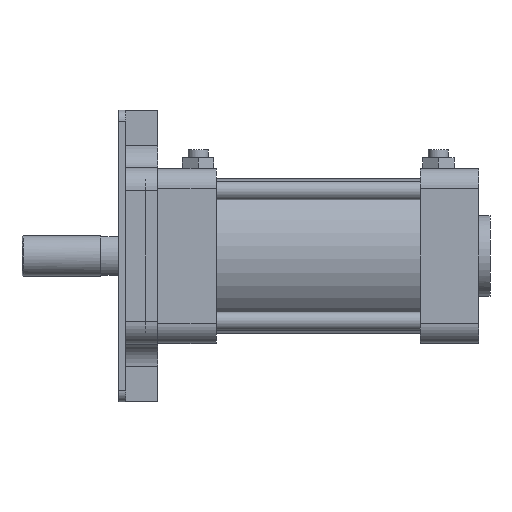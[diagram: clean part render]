
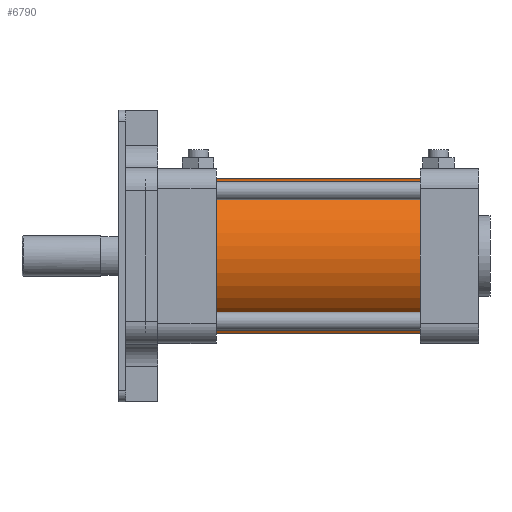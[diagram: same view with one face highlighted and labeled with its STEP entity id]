
A CAD part, front view. The second image highlights one B-rep face of the part: STEP entity #6790.
In plain terms, the highlighted cylindrical face has radius 34.5 mm (diameter 69 mm), a partial arc.
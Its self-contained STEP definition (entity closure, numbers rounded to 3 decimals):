
#191 = EDGE_CURVE ( 'NONE', #2892, #2362, #690, .T. ) ;
#510 = VERTEX_POINT ( 'NONE', #8027 ) ;
#690 = CIRCLE ( 'NONE', #8391, 34.5 ) ;
#858 = CARTESIAN_POINT ( 'NONE',  ( -29.1, 0., -34.5 ) ) ;
#1025 = DIRECTION ( 'NONE',  ( -1., 0., 0. ) ) ;
#1352 = CARTESIAN_POINT ( 'NONE',  ( -29.1, 0., 34.5 ) ) ;
#2328 = CARTESIAN_POINT ( 'NONE',  ( -45.5, 0., 34.5 ) ) ;
#2362 = VERTEX_POINT ( 'NONE', #8164 ) ;
#2718 = EDGE_CURVE ( 'NONE', #2892, #510, #9784, .T. ) ;
#2798 = DIRECTION ( 'NONE',  ( -1., 0., 0. ) ) ;
#2826 = VECTOR ( 'NONE', #5533, 1000. ) ;
#2892 = VERTEX_POINT ( 'NONE', #5248 ) ;
#2983 = AXIS2_PLACEMENT_3D ( 'NONE', #3175, #1025, #3490 ) ;
#3175 = CARTESIAN_POINT ( 'NONE',  ( -29.1, 0., 0. ) ) ;
#3438 = CIRCLE ( 'NONE', #5509, 34.5 ) ;
#3490 = DIRECTION ( 'NONE',  ( 0., 0., 1. ) ) ;
#3554 = EDGE_LOOP ( 'NONE', ( #4720, #6236, #5754, #9821 ) ) ;
#3973 = DIRECTION ( 'NONE',  ( 0., 0., 1. ) ) ;
#4720 = ORIENTED_EDGE ( 'NONE', *, *, #2718, .F. ) ;
#4732 = EDGE_CURVE ( 'NONE', #2362, #8371, #5874, .T. ) ;
#4828 = DIRECTION ( 'NONE',  ( -1., 0., 0. ) ) ;
#4998 = CARTESIAN_POINT ( 'NONE',  ( -45.5, 0., 0. ) ) ;
#5248 = CARTESIAN_POINT ( 'NONE',  ( 45.5, 0., -34.5 ) ) ;
#5509 = AXIS2_PLACEMENT_3D ( 'NONE', #4998, #8477, #3973 ) ;
#5533 = DIRECTION ( 'NONE',  ( -1., 0., 0. ) ) ;
#5754 = ORIENTED_EDGE ( 'NONE', *, *, #4732, .T. ) ;
#5874 = LINE ( 'NONE', #1352, #2826 ) ;
#6236 = ORIENTED_EDGE ( 'NONE', *, *, #191, .T. ) ;
#6344 = EDGE_CURVE ( 'NONE', #510, #8371, #3438, .T. ) ;
#6790 = ADVANCED_FACE ( 'NONE', ( #6868 ), #7022, .T. ) ;
#6868 = FACE_OUTER_BOUND ( 'NONE', #3554, .T. ) ;
#7022 = CYLINDRICAL_SURFACE ( 'NONE', #2983, 34.5 ) ;
#7325 = DIRECTION ( 'NONE',  ( 0., 0., 1. ) ) ;
#8027 = CARTESIAN_POINT ( 'NONE',  ( -45.5, 0., -34.5 ) ) ;
#8164 = CARTESIAN_POINT ( 'NONE',  ( 45.5, 0., 34.5 ) ) ;
#8371 = VERTEX_POINT ( 'NONE', #2328 ) ;
#8391 = AXIS2_PLACEMENT_3D ( 'NONE', #9739, #2798, #7325 ) ;
#8404 = VECTOR ( 'NONE', #4828, 1000. ) ;
#8477 = DIRECTION ( 'NONE',  ( -1., 0., 0. ) ) ;
#9739 = CARTESIAN_POINT ( 'NONE',  ( 45.5, 0., 0. ) ) ;
#9784 = LINE ( 'NONE', #858, #8404 ) ;
#9821 = ORIENTED_EDGE ( 'NONE', *, *, #6344, .F. ) ;
